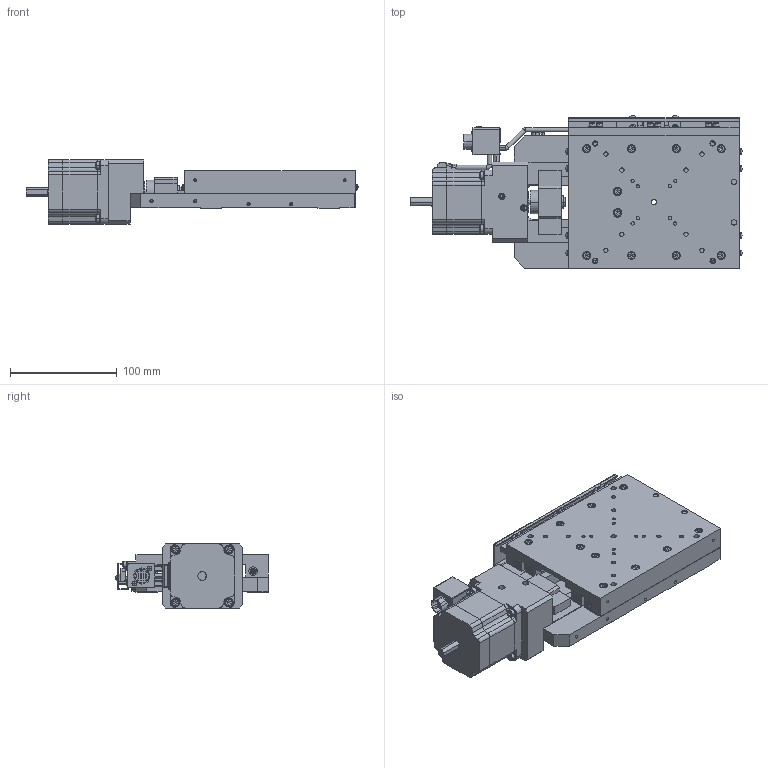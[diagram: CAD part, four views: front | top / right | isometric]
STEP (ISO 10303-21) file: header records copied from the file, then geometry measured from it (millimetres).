
FILE_DESCRIPTION (( 'STEP AP203' ), '1' );
FILE_NAME ('XA16A-R101-R.STEP', '2019-03-01T08:03:23', ( '' ), ( '' ), 'SwSTEP 2.0', 'SolidWorks 2018', '' );
FILE_SCHEMA (( 'CONFIG_CONTROL_DESIGN' ));
Length unit declared in the file: millimetre
Products named in the file (3): base; XA16A-R101-R; table
Assembly tree (2 placements, depth 2):
  XA16A-R101-R
    table
    base
Bounding box: 310.98 x 143.09 x 60 mm (x, y, z)
Volume: 959797.8 mm3; surface area: 207145.9 mm2
Topology: 2 solids, 2 shells, 2340 faces, 5759 edges, 3548 vertices
Faces by surface type: plane 1385, cylinder 593, cone 276, torus 34, sphere 32, bspline 20
Entity records: 69673 total; most frequent: CARTESIAN_POINT 13089, DIRECTION 12224, ORIENTED_EDGE 11350, EDGE_CURVE 5675, AXIS2_PLACEMENT_3D 4365, VERTEX_POINT 3548, LINE 3494, VECTOR 3494
